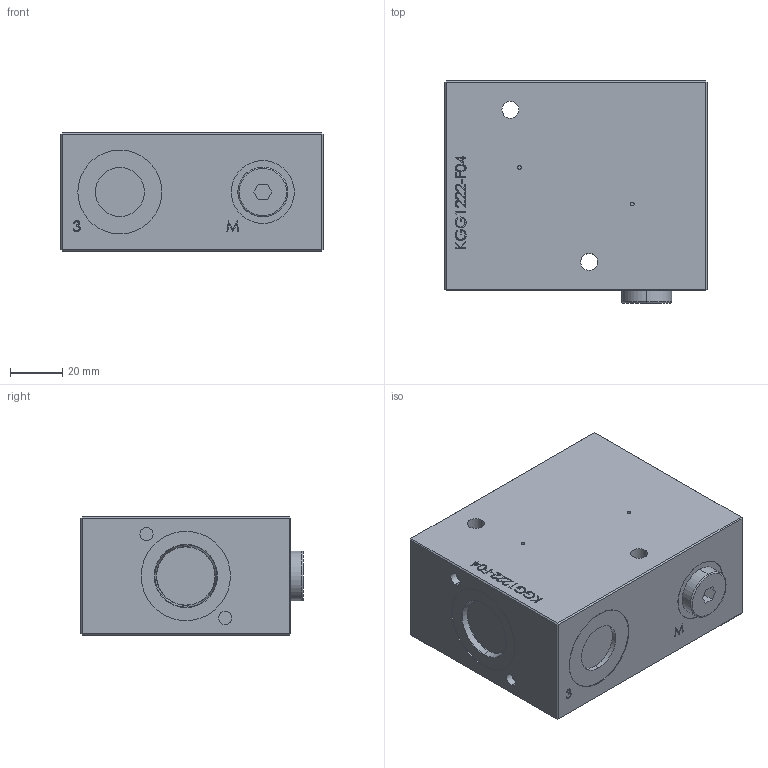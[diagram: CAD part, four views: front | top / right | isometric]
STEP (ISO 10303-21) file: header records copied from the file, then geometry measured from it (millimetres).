
FILE_DESCRIPTION (( 'STEP AP214' ), '1' );
FILE_NAME ('KGG1222-F04.STEP', '2016-11-28T07:37:29', ( '' ), ( '' ), 'SwSTEP 2.0', 'SolidWorks 2014', '' );
FILE_SCHEMA (( 'AUTOMOTIVE_DESIGN' ));
Length unit declared in the file: millimetre
Products named in the file (2): KGG1222-F04
Bounding box: 100 x 84.7 x 45 mm (x, y, z)
Volume: 354050.9 mm3; surface area: 35622.4 mm2
Topology: 2 solids, 3 shells, 277 faces, 687 edges, 448 vertices
Faces by surface type: plane 166, bspline 65, cylinder 38, torus 4, cone 4
Entity records: 15225 total; most frequent: CARTESIAN_POINT 5983, ORIENTED_EDGE 1374, DIRECTION 1075, EDGE_CURVE 687, LINE 467, VECTOR 467, VERTEX_POINT 448, EDGE_LOOP 317
